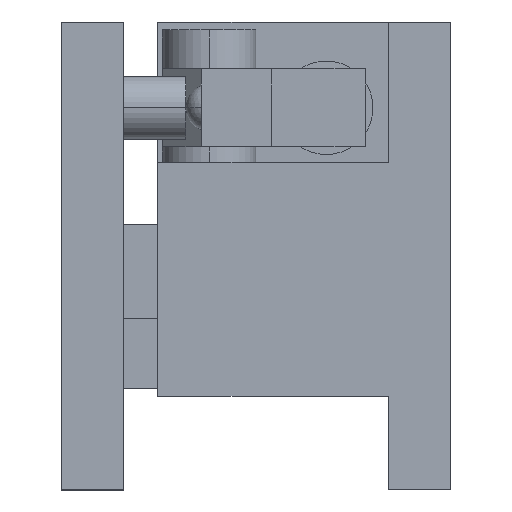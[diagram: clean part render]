
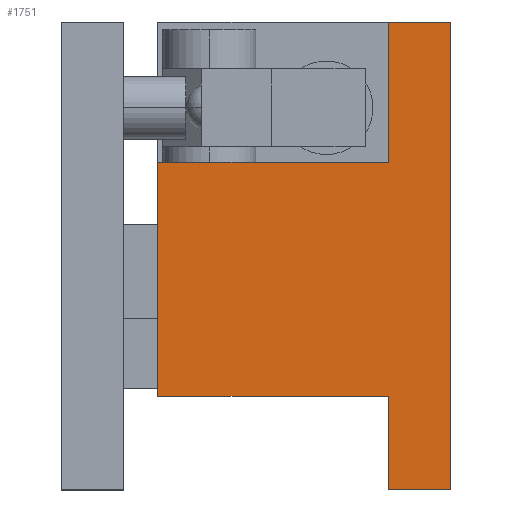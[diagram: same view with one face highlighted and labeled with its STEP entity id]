
A CAD part, left-side view. The second image highlights one B-rep face of the part: STEP entity #1751.
In plain terms, the highlighted planar face has unit normal (-1, 0, 0).
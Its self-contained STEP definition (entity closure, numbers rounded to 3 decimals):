
#1035 = VERTEX_POINT ( 'NONE', #3487 ) ;
#1039 = VERTEX_POINT ( 'NONE', #3519 ) ;
#1168 = EDGE_CURVE ( 'NONE', #1039, #1035, #3734, .T. ) ;
#1256 = VERTEX_POINT ( 'NONE', #3855 ) ;
#1257 = VERTEX_POINT ( 'NONE', #3854 ) ;
#1269 = EDGE_CURVE ( 'NONE', #1256, #1257, #3938, .T. ) ;
#1467 = EDGE_CURVE ( 'NONE', #1256, #1035, #4234, .T. ) ;
#1571 = VERTEX_POINT ( 'NONE', #4460 ) ;
#1638 = EDGE_LOOP ( 'NONE', ( #1658, #1655, #1645, #1679, #1704, #1678, #1677, #1750 ) ) ;
#1642 = EDGE_CURVE ( 'NONE', #1644, #1659, #4539, .T. ) ;
#1643 = VERTEX_POINT ( 'NONE', #4481 ) ;
#1644 = VERTEX_POINT ( 'NONE', #4480 ) ;
#1645 = ORIENTED_EDGE ( 'NONE', *, *, #1653, .F. ) ;
#1653 = EDGE_CURVE ( 'NONE', #1643, #1644, #4502, .T. ) ;
#1655 = ORIENTED_EDGE ( 'NONE', *, *, #1642, .F. ) ;
#1658 = ORIENTED_EDGE ( 'NONE', *, *, #1676, .F. ) ;
#1659 = VERTEX_POINT ( 'NONE', #4613 ) ;
#1676 = EDGE_CURVE ( 'NONE', #1659, #1571, #4568, .T. ) ;
#1677 = ORIENTED_EDGE ( 'NONE', *, *, #1269, .T. ) ;
#1678 = ORIENTED_EDGE ( 'NONE', *, *, #1467, .F. ) ;
#1679 = ORIENTED_EDGE ( 'NONE', *, *, #1680, .F. ) ;
#1680 = EDGE_CURVE ( 'NONE', #1039, #1643, #4564, .T. ) ;
#1704 = ORIENTED_EDGE ( 'NONE', *, *, #1168, .T. ) ;
#1750 = ORIENTED_EDGE ( 'NONE', *, *, #1774, .T. ) ;
#1751 = ADVANCED_FACE ( 'NONE', ( #4545 ), #4594, .F. ) ;
#1774 = EDGE_CURVE ( 'NONE', #1257, #1571, #4584, .T. ) ;
#3487 = CARTESIAN_POINT ( 'NONE',  ( -17.75, 4., -9. ) ) ;
#3519 = CARTESIAN_POINT ( 'NONE',  ( -17.75, 18.8, -9. ) ) ;
#3731 = DIRECTION ( 'NONE',  ( 0., -1., 0. ) ) ;
#3732 = VECTOR ( 'NONE', #3731, 1000. ) ;
#3733 = CARTESIAN_POINT ( 'NONE',  ( -17.75, 18.8, -9. ) ) ;
#3734 = LINE ( 'NONE', #3733, #3732 ) ;
#3854 = CARTESIAN_POINT ( 'NONE',  ( -17.75, 0., -15. ) ) ;
#3855 = CARTESIAN_POINT ( 'NONE',  ( -17.75, 4., -15. ) ) ;
#3930 = DIRECTION ( 'NONE',  ( 0., -1., 0. ) ) ;
#3931 = VECTOR ( 'NONE', #3930, 1000. ) ;
#3932 = CARTESIAN_POINT ( 'NONE',  ( -17.75, 18.8, -15. ) ) ;
#3938 = LINE ( 'NONE', #3932, #3931 ) ;
#4233 = CARTESIAN_POINT ( 'NONE',  ( -17.75, 4., -15. ) ) ;
#4234 = LINE ( 'NONE', #4233, #4309 ) ;
#4308 = DIRECTION ( 'NONE',  ( 0., 0., 1. ) ) ;
#4309 = VECTOR ( 'NONE', #4308, 1000. ) ;
#4460 = CARTESIAN_POINT ( 'NONE',  ( -17.75, 0., 15. ) ) ;
#4480 = CARTESIAN_POINT ( 'NONE',  ( -17.75, 4., 6. ) ) ;
#4481 = CARTESIAN_POINT ( 'NONE',  ( -17.75, 18.8, 6. ) ) ;
#4482 = DIRECTION ( 'NONE',  ( 0., 0., 1. ) ) ;
#4483 = VECTOR ( 'NONE', #4482, 1000. ) ;
#4502 = LINE ( 'NONE', #4616, #4615 ) ;
#4538 = CARTESIAN_POINT ( 'NONE',  ( -17.75, 4., 6. ) ) ;
#4539 = LINE ( 'NONE', #4538, #4483 ) ;
#4545 = FACE_OUTER_BOUND ( 'NONE', #1638, .T. ) ;
#4564 = LINE ( 'NONE', #4611, #4610 ) ;
#4565 = DIRECTION ( 'NONE',  ( 0., -1., 0. ) ) ;
#4566 = VECTOR ( 'NONE', #4565, 1000. ) ;
#4567 = CARTESIAN_POINT ( 'NONE',  ( -17.75, 18.8, 15. ) ) ;
#4568 = LINE ( 'NONE', #4567, #4566 ) ;
#4584 = LINE ( 'NONE', #4628, #4627 ) ;
#4590 = DIRECTION ( 'NONE',  ( 0., 0., -1. ) ) ;
#4591 = DIRECTION ( 'NONE',  ( 1., 0., 0. ) ) ;
#4592 = CARTESIAN_POINT ( 'NONE',  ( -17.75, 18.8, -15. ) ) ;
#4593 = AXIS2_PLACEMENT_3D ( 'NONE', #4592, #4591, #4590 ) ;
#4594 = PLANE ( 'NONE',  #4593 ) ;
#4609 = DIRECTION ( 'NONE',  ( 0., 0., 1. ) ) ;
#4610 = VECTOR ( 'NONE', #4609, 1000. ) ;
#4611 = CARTESIAN_POINT ( 'NONE',  ( -17.75, 18.8, -9. ) ) ;
#4613 = CARTESIAN_POINT ( 'NONE',  ( -17.75, 4., 15. ) ) ;
#4614 = DIRECTION ( 'NONE',  ( 0., -1., 0. ) ) ;
#4615 = VECTOR ( 'NONE', #4614, 1000. ) ;
#4616 = CARTESIAN_POINT ( 'NONE',  ( -17.75, 18.8, 6. ) ) ;
#4626 = DIRECTION ( 'NONE',  ( 0., 0., 1. ) ) ;
#4627 = VECTOR ( 'NONE', #4626, 1000. ) ;
#4628 = CARTESIAN_POINT ( 'NONE',  ( -17.75, 0., -15. ) ) ;
